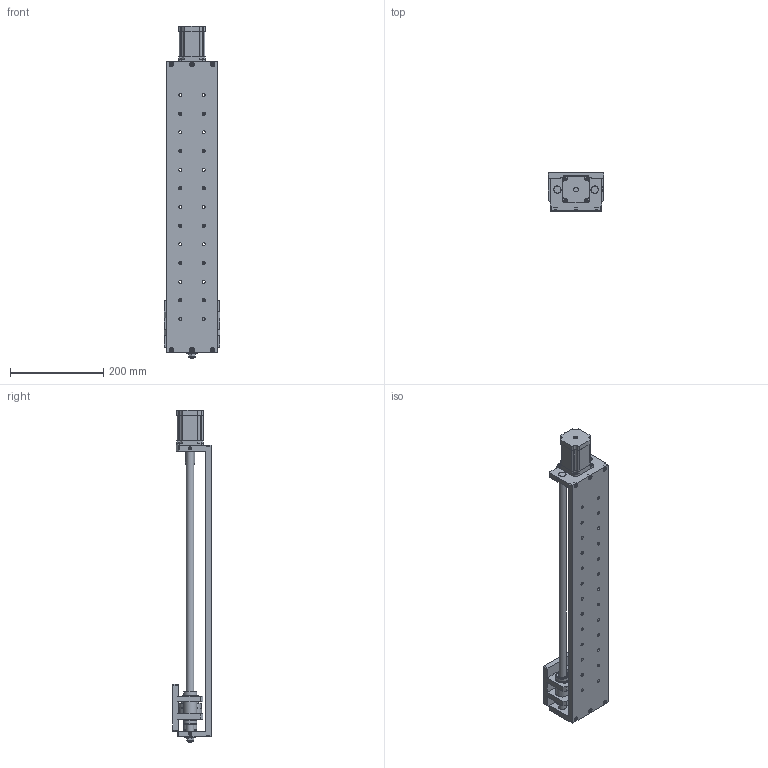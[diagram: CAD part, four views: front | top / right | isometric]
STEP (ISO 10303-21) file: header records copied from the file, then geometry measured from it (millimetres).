
FILE_DESCRIPTION(('STEP AP203'), '1');
FILE_NAME('PLLM-12-500 - ìîäóëü ëèíåéíîãî ïåðåìåùåíèÿ', '2022-05-04T13:03:03', (''), (''), 'ASCON STEP Converter 1.6', 'ASCON Math Kernel', '');
FILE_SCHEMA(('CONFIG_CONTROL_DESIGN'));
Length unit declared in the file: millimetre
Products named in the file (1): PLLM-12-500-000 СБ
Bounding box: 120 x 82 x 711.5 mm (x, y, z)
Volume: 1878214.7 mm3; surface area: 369451.2 mm2
Topology: 15 solids, 15 shells, 1594 faces, 3858 edges, 2434 vertices
Faces by surface type: plane 961, cylinder 268, cone 205, extrusion 134, sphere 14, torus 12
Full cylindrical faces by diameter (mm): 2 x8, 2.459 x2, 2.5 x2, 3 x2, 3.5 x2, 4 x15, 4.134 x5, 4.917 x22, 5 x4, 5.1 x4, 5.5 x4, 5.8 x2, 6.5 x14, 8 x4, 8.5 x14, 10 x11, 10.8 x4, 11 x4, 12 x14, 13 x1, 16 x10, 19.07 x8, 22 x3, 24 x4, 25 x2, 27 x4, 28 x7, 38.1 x1, 38.5 x1, 49 x1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
Entity records: 61836 total; most frequent: CARTESIAN_POINT 13687, DIRECTION 7012, ORIENTED_EDGE 6784, EDGE_CURVE 3392, AXIS2_PLACEMENT_3D 2448, VERTEX_POINT 2356, EDGE_LOOP 2196, VECTOR 2116
